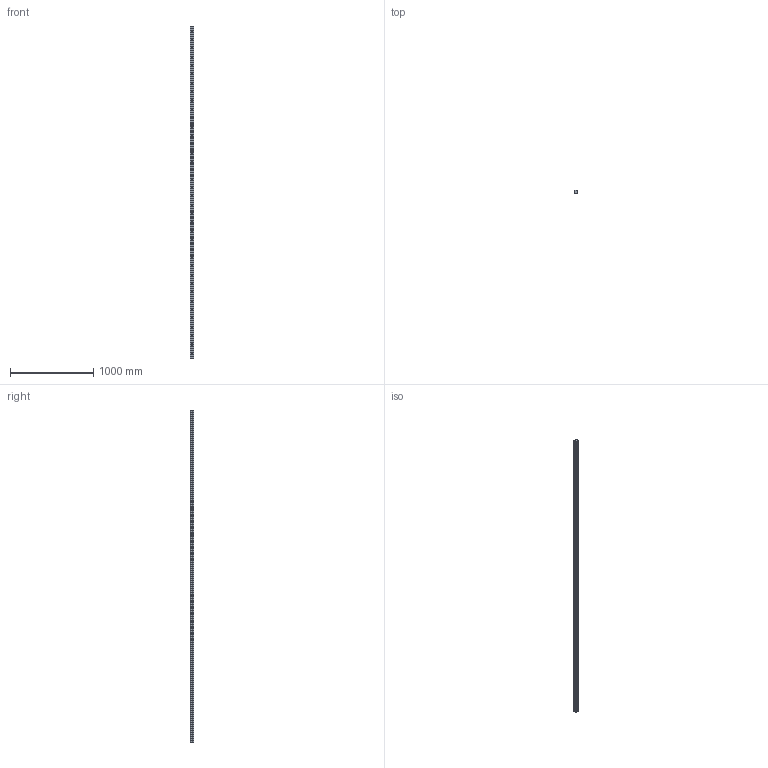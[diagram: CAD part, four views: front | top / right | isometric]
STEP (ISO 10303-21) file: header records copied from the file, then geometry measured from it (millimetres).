
FILE_DESCRIPTION (( 'STEP AP203' ), '1' );
FILE_NAME ('SGR45R4000L.STEP', '2025-06-26T09:02:34', ( 'Owner' ), ( 'Organization' ), 'SwSTEP 2.0', 'SolidWorks 2020', '' );
FILE_SCHEMA (( 'CONFIG_CONTROL_DESIGN' ));
Length unit declared in the file: millimetre
Products named in the file (1): SGR45R4000L
Bounding box: 45 x 38 x 4000 mm (x, y, z)
Volume: 5377763.4 mm3; surface area: 750277.3 mm2
Topology: 1 solids, 1 shells, 234 faces, 582 edges, 388 vertices
Faces by surface type: cylinder 166, plane 68
Entity records: 7367 total; most frequent: DIRECTION 1384, CARTESIAN_POINT 1205, ORIENTED_EDGE 1164, EDGE_CURVE 582, AXIS2_PLACEMENT_3D 567, VERTEX_POINT 388, EDGE_LOOP 348, CIRCLE 332
